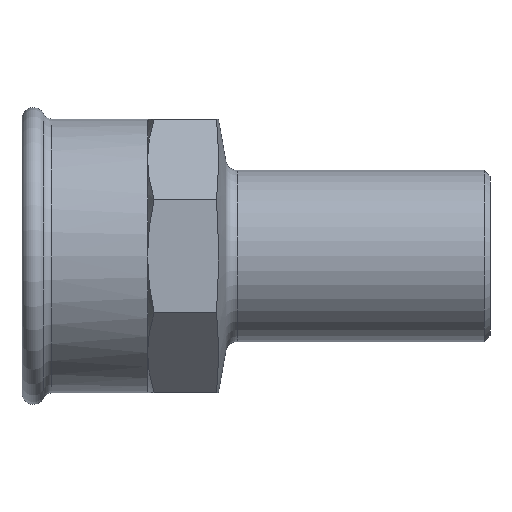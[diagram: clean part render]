
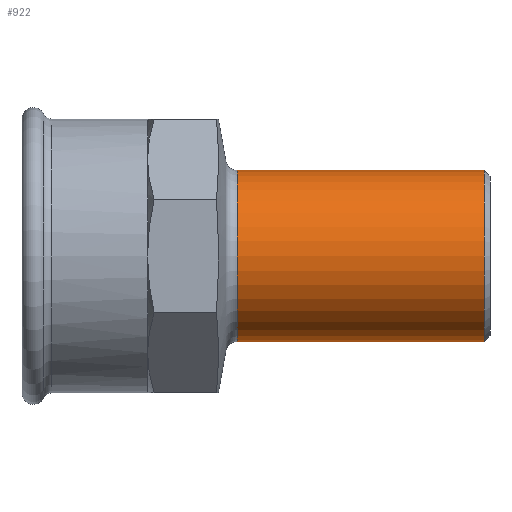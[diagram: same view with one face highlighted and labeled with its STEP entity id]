
A CAD part, left-side view. The second image highlights one B-rep face of the part: STEP entity #922.
In plain terms, the highlighted cylindrical face has radius 7.5 mm (diameter 15 mm), a partial arc.
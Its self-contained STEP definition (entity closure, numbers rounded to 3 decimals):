
#21 = CARTESIAN_POINT ( 'NONE',  ( 0., -17.811, 7.5 ) ) ;
#31 = EDGE_LOOP ( 'NONE', ( #1157, #336, #518, #954 ) ) ;
#45 = DIRECTION ( 'NONE',  ( 0., -1., 0. ) ) ;
#93 = CARTESIAN_POINT ( 'NONE',  ( 0., 22.161, 7.5 ) ) ;
#96 = FACE_OUTER_BOUND ( 'NONE', #31, .T. ) ;
#99 = VERTEX_POINT ( 'NONE', #93 ) ;
#158 = VECTOR ( 'NONE', #705, 1000. ) ;
#212 = DIRECTION ( 'NONE',  ( 0., 0., -1. ) ) ;
#225 = LINE ( 'NONE', #21, #158 ) ;
#250 = CARTESIAN_POINT ( 'NONE',  ( 0., 22.161, -7.5 ) ) ;
#278 = DIRECTION ( 'NONE',  ( 0., -1., 0. ) ) ;
#336 = ORIENTED_EDGE ( 'NONE', *, *, #546, .T. ) ;
#353 = VERTEX_POINT ( 'NONE', #1035 ) ;
#366 = EDGE_CURVE ( 'NONE', #99, #353, #225, .T. ) ;
#423 = VECTOR ( 'NONE', #812, 1000. ) ;
#470 = CARTESIAN_POINT ( 'NONE',  ( 0., 0.5, 0. ) ) ;
#517 = AXIS2_PLACEMENT_3D ( 'NONE', #1100, #278, #707 ) ;
#518 = ORIENTED_EDGE ( 'NONE', *, *, #662, .T. ) ;
#546 = EDGE_CURVE ( 'NONE', #99, #1124, #859, .T. ) ;
#662 = EDGE_CURVE ( 'NONE', #1124, #876, #967, .T. ) ;
#705 = DIRECTION ( 'NONE',  ( 0., -1., 0. ) ) ;
#707 = DIRECTION ( 'NONE',  ( 0., 0., -1. ) ) ;
#765 = CARTESIAN_POINT ( 'NONE',  ( 0., -17.811, -7.5 ) ) ;
#778 = CIRCLE ( 'NONE', #1253, 7.5 ) ;
#812 = DIRECTION ( 'NONE',  ( 0., -1., 0. ) ) ;
#859 = CIRCLE ( 'NONE', #1109, 7.5 ) ;
#876 = VERTEX_POINT ( 'NONE', #983 ) ;
#922 = ADVANCED_FACE ( 'NONE', ( #96 ), #923, .T. ) ;
#923 = CYLINDRICAL_SURFACE ( 'NONE', #517, 7.5 ) ;
#954 = ORIENTED_EDGE ( 'NONE', *, *, #1085, .F. ) ;
#967 = LINE ( 'NONE', #765, #423 ) ;
#983 = CARTESIAN_POINT ( 'NONE',  ( 0., 0.5, -7.5 ) ) ;
#1035 = CARTESIAN_POINT ( 'NONE',  ( 0., 0.5, 7.5 ) ) ;
#1085 = EDGE_CURVE ( 'NONE', #353, #876, #778, .T. ) ;
#1100 = CARTESIAN_POINT ( 'NONE',  ( 0., -17.811, 0. ) ) ;
#1109 = AXIS2_PLACEMENT_3D ( 'NONE', #1196, #1199, #1209 ) ;
#1124 = VERTEX_POINT ( 'NONE', #250 ) ;
#1157 = ORIENTED_EDGE ( 'NONE', *, *, #366, .F. ) ;
#1196 = CARTESIAN_POINT ( 'NONE',  ( 0., 22.161, 0. ) ) ;
#1199 = DIRECTION ( 'NONE',  ( 0., -1., 0. ) ) ;
#1209 = DIRECTION ( 'NONE',  ( 0., 0., -1. ) ) ;
#1253 = AXIS2_PLACEMENT_3D ( 'NONE', #470, #45, #212 ) ;
